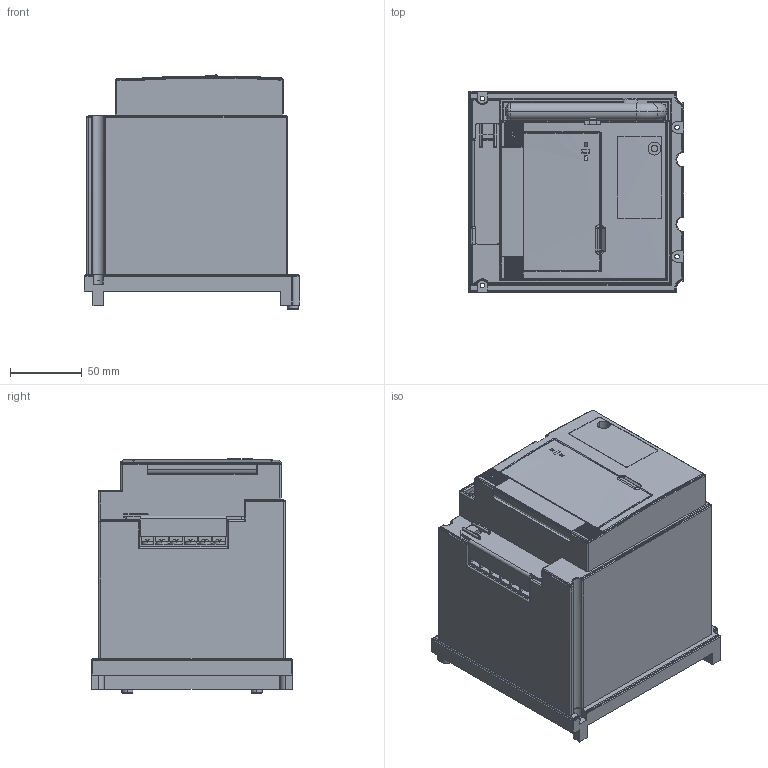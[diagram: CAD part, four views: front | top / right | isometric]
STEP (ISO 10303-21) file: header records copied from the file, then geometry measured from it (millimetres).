
FILE_DESCRIPTION((''),'2;1');
FILE_NAME('0000315203_ASM','2026-06-09T16:10:55',('zhangda'),(''),'CREO PARAMETRIC BY PTC INC, 2020354','CREO PARAMETRIC BY PTC INC, 2020354','');
FILE_SCHEMA(('CONFIG_CONTROL_DESIGN'));
Products named in the file (15): J300_514_1_1; WL8_253_081_THM5-200_1_1_2; WF8_310__T-25000_1_1; WF8_310__T-37000_1_1; WL8_024_THM5-600_2_1; WL8_024_134G_1_1; WL8_235_THM5-600_2_1; WF8_310_THM0_2_1; 100_047_1_1; 00_1_1; J261_552_1_1; ASM0003_ASM_1_1_ASM; 0000315279; GB_T818-M4X10; 0000315203_ASM
Assembly tree (19 placements, depth 3):
  0000315203_ASM
    ASM0003_ASM_1_1_ASM
      J300_514_1_1
      WL8_253_081_THM5-200_1_1_2
      WF8_310__T-25000_1_1
      WF8_310__T-37000_1_1
      WL8_024_THM5-600_2_1
      WL8_024_134G_1_1
      WL8_235_THM5-600_2_1
      WF8_310_THM0_2_1
      100_047_1_1
      00_1_1
      J261_552_1_1
    0000315279
    GB_T818-M4X10  x6
Bounding box: 150.3 x 140 x 163.55 mm (x, y, z)
Volume: 485768.6 mm3; surface area: 316824.4 mm2
Topology: 18 solids, 24 shells, 1563 faces, 4156 edges, 2581 vertices
Faces by surface type: plane 811, cylinder 520, torus 98, sphere 63, bspline 55, cone 16
Entity records: 50722 total; most frequent: CARTESIAN_POINT 14023, DIRECTION 7738, ORIENTED_EDGE 7644, EDGE_CURVE 3824, AXIS2_PLACEMENT_3D 2687, VERTEX_POINT 2411, VECTOR 2364, LINE 2364
